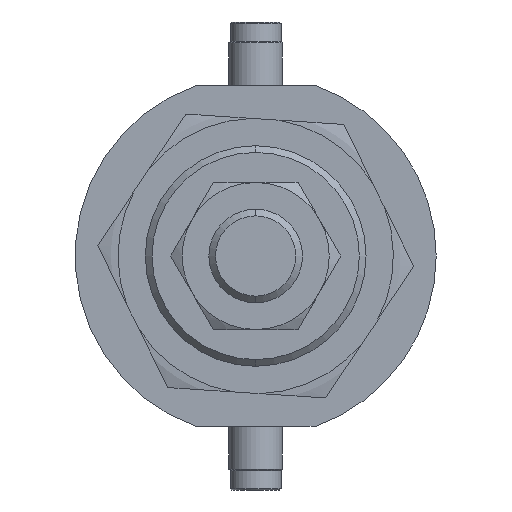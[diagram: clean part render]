
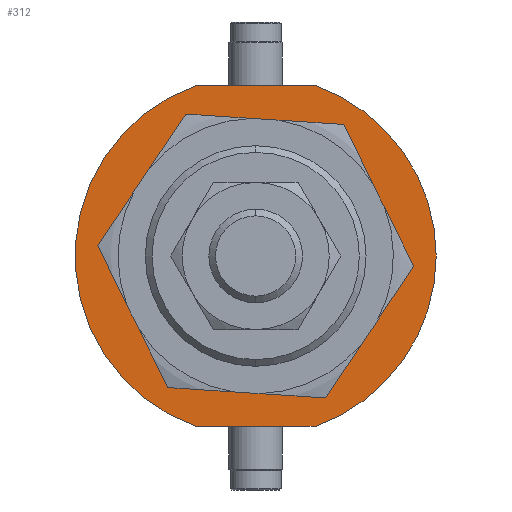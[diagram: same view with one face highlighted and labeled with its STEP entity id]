
A CAD part, left-side view. The second image highlights one B-rep face of the part: STEP entity #312.
In plain terms, the highlighted planar face has unit normal (-1, 0, 0) as drawn and (0, 1, 0) by its records, which use the part's own axes.
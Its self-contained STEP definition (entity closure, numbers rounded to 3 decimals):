
#93 = DIRECTION ( 'NONE',  ( 0., 0., 1. ) ) ;
#114 = CARTESIAN_POINT ( 'NONE',  ( 25.5, 4.5, 8.874 ) ) ;
#130 = DIRECTION ( 'NONE',  ( 0., 0., 1. ) ) ;
#151 = CARTESIAN_POINT ( 'NONE',  ( 0., 4.5, 0. ) ) ;
#190 = DIRECTION ( 'NONE',  ( 0., 0., 1. ) ) ;
#286 = CIRCLE ( 'NONE', #1927, 16.5 ) ;
#312 = ADVANCED_FACE ( 'NONE', ( #3758, #1707 ), #324, .T. ) ;
#324 = PLANE ( 'NONE',  #2928 ) ;
#349 = VECTOR ( 'NONE', #3005, 1000. ) ;
#488 = EDGE_CURVE ( 'NONE', #1974, #633, #1201, .T. ) ;
#529 = EDGE_CURVE ( 'NONE', #4096, #3793, #2821, .T. ) ;
#610 = CARTESIAN_POINT ( 'NONE',  ( -25.5, 4.5, -8.874 ) ) ;
#629 = VECTOR ( 'NONE', #1597, 1000. ) ;
#633 = VERTEX_POINT ( 'NONE', #3113 ) ;
#826 = AXIS2_PLACEMENT_3D ( 'NONE', #151, #1104, #190 ) ;
#926 = DIRECTION ( 'NONE',  ( 0., 0., 1. ) ) ;
#1016 = CARTESIAN_POINT ( 'NONE',  ( -25.5, 4.5, -8.874 ) ) ;
#1032 = ORIENTED_EDGE ( 'NONE', *, *, #488, .T. ) ;
#1104 = DIRECTION ( 'NONE',  ( 0., 1., 0. ) ) ;
#1201 = LINE ( 'NONE', #2686, #349 ) ;
#1204 = EDGE_LOOP ( 'NONE', ( #3973, #2491, #2696, #3266, #1032 ) ) ;
#1224 = DIRECTION ( 'NONE',  ( 0., 1., 0. ) ) ;
#1254 = CARTESIAN_POINT ( 'NONE',  ( 0., 4.5, 0. ) ) ;
#1425 = EDGE_CURVE ( 'NONE', #3793, #4096, #286, .T. ) ;
#1440 = CARTESIAN_POINT ( 'NONE',  ( 0., 4.5, 27. ) ) ;
#1513 = CIRCLE ( 'NONE', #1592, 27. ) ;
#1519 = VERTEX_POINT ( 'NONE', #610 ) ;
#1587 = VERTEX_POINT ( 'NONE', #3063 ) ;
#1592 = AXIS2_PLACEMENT_3D ( 'NONE', #2975, #3654, #93 ) ;
#1597 = DIRECTION ( 'NONE',  ( 0., 0., 1. ) ) ;
#1617 = DIRECTION ( 'NONE',  ( 0., 0., 1. ) ) ;
#1641 = CARTESIAN_POINT ( 'NONE',  ( 0., 4.5, 0. ) ) ;
#1676 = DIRECTION ( 'NONE',  ( 0., 1., 0. ) ) ;
#1706 = DIRECTION ( 'NONE',  ( 0., 1., 0. ) ) ;
#1707 = FACE_OUTER_BOUND ( 'NONE', #1204, .T. ) ;
#1927 = AXIS2_PLACEMENT_3D ( 'NONE', #2646, #1676, #2689 ) ;
#1974 = VERTEX_POINT ( 'NONE', #114 ) ;
#2351 = ORIENTED_EDGE ( 'NONE', *, *, #529, .F. ) ;
#2367 = CIRCLE ( 'NONE', #4128, 27. ) ;
#2404 = AXIS2_PLACEMENT_3D ( 'NONE', #1254, #1224, #926 ) ;
#2491 = ORIENTED_EDGE ( 'NONE', *, *, #3373, .T. ) ;
#2543 = VERTEX_POINT ( 'NONE', #1440 ) ;
#2646 = CARTESIAN_POINT ( 'NONE',  ( 0., 4.5, 0. ) ) ;
#2686 = CARTESIAN_POINT ( 'NONE',  ( 25.5, 4.5, -8.874 ) ) ;
#2689 = DIRECTION ( 'NONE',  ( 0., 0., 1. ) ) ;
#2696 = ORIENTED_EDGE ( 'NONE', *, *, #3931, .T. ) ;
#2821 = CIRCLE ( 'NONE', #826, 16.5 ) ;
#2895 = DIRECTION ( 'NONE',  ( 0., 1., 0. ) ) ;
#2912 = CARTESIAN_POINT ( 'NONE',  ( 0., 4.5, -16.5 ) ) ;
#2928 = AXIS2_PLACEMENT_3D ( 'NONE', #1641, #2895, #1617 ) ;
#2975 = CARTESIAN_POINT ( 'NONE',  ( 0., 4.5, 0. ) ) ;
#3005 = DIRECTION ( 'NONE',  ( 0., 0., -1. ) ) ;
#3025 = ORIENTED_EDGE ( 'NONE', *, *, #1425, .F. ) ;
#3063 = CARTESIAN_POINT ( 'NONE',  ( -25.5, 4.5, 8.874 ) ) ;
#3110 = CARTESIAN_POINT ( 'NONE',  ( 0., 4.5, 16.5 ) ) ;
#3113 = CARTESIAN_POINT ( 'NONE',  ( 25.5, 4.5, -8.874 ) ) ;
#3266 = ORIENTED_EDGE ( 'NONE', *, *, #4146, .T. ) ;
#3373 = EDGE_CURVE ( 'NONE', #1519, #1587, #3632, .T. ) ;
#3407 = EDGE_LOOP ( 'NONE', ( #3025, #2351 ) ) ;
#3620 = CIRCLE ( 'NONE', #2404, 27. ) ;
#3632 = LINE ( 'NONE', #1016, #629 ) ;
#3654 = DIRECTION ( 'NONE',  ( 0., 1., 0. ) ) ;
#3758 = FACE_BOUND ( 'NONE', #3407, .T. ) ;
#3793 = VERTEX_POINT ( 'NONE', #3110 ) ;
#3931 = EDGE_CURVE ( 'NONE', #1587, #2543, #3620, .T. ) ;
#3941 = CARTESIAN_POINT ( 'NONE',  ( 0., 4.5, 0. ) ) ;
#3973 = ORIENTED_EDGE ( 'NONE', *, *, #4063, .T. ) ;
#4063 = EDGE_CURVE ( 'NONE', #633, #1519, #2367, .T. ) ;
#4096 = VERTEX_POINT ( 'NONE', #2912 ) ;
#4128 = AXIS2_PLACEMENT_3D ( 'NONE', #3941, #1706, #130 ) ;
#4146 = EDGE_CURVE ( 'NONE', #2543, #1974, #1513, .T. ) ;
